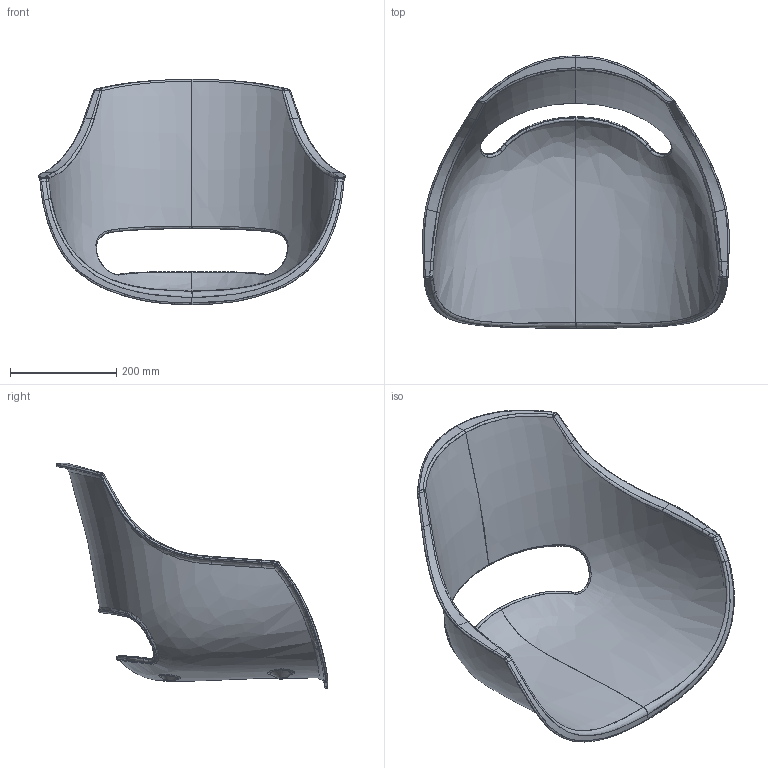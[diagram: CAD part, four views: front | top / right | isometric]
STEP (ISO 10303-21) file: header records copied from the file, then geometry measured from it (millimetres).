
FILE_DESCRIPTION(/* description */ (''),/* implementation_level */ '2;1');
FILE_NAME(/* name */ 'opal kabuk',/* time_stamp */ '2014-07-17T14:57:04+03:00',/* author */ (''),/* organization */ (''),/* preprocessor_version */ 'ST-DEVELOPER v10',/* originating_system */ '',/* authorisation */ '');
FILE_SCHEMA (('CONFIG_CONTROL_DESIGN'));
Length unit declared in the file: centimetre
Products named in the file (1): 1
Bounding box: 576.11 x 510.53 x 422.92 mm (x, y, z)
Surface area: 898456.6 mm2 (no closed solid volume)
Topology: 0 solids, 403 shells, 419 faces, 1219 edges, 1183 vertices
Faces by surface type: bspline 419
Entity records: 31563 total; most frequent: CARTESIAN_POINT 24878, ORIENTED_EDGE 1247, EDGE_CURVE 1215, VERTEX_POINT 1183, B_SPLINE_CURVE_WITH_KNOTS 757, EDGE_LOOP 423, ADVANCED_FACE 419, FACE_OUTER_BOUND 419
